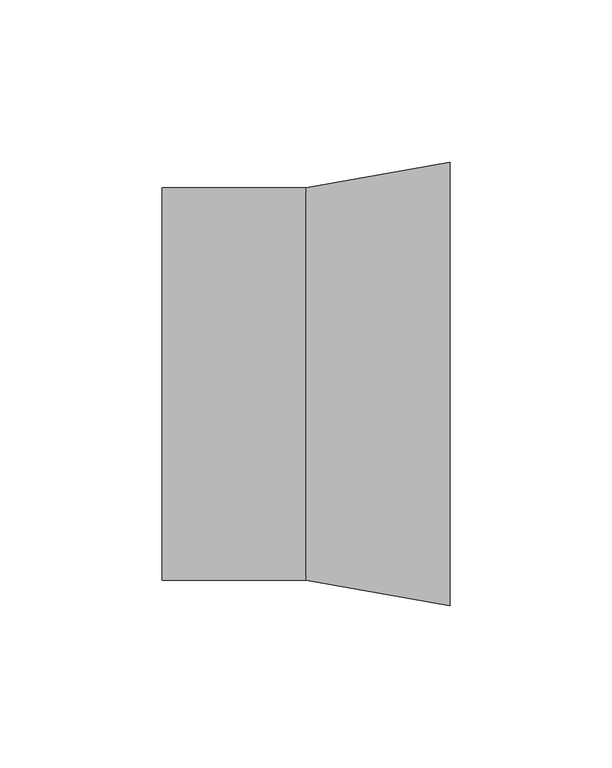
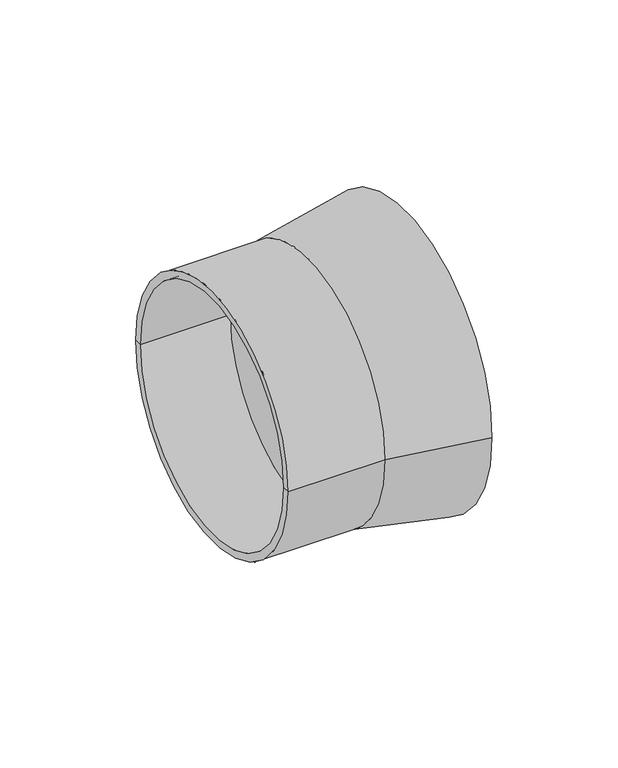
"""IFC4 building model written with IfcOpenShell, lengths in millimetres: cable carrier fitting geometry, PavcoWavin_ConduitFittings_TerminalCampana_Ducto : EB y DB."""

from ifc_helpers import new_model, si_unit, frame, origin, place, context, project, spatial, polyline, circle_curve, source, transform, mapped, element, save
from ifc_brep_helpers import plane_surface, cylinder_surface, revolved_surface, advanced_brep


def cable_carrier_fitting_0bd2d3bd(model_context):
    return source(origin(), model_context, "Body", "AdvancedBrep", [
        advanced_brep(
        [(3.175, -57.15, 0.0), (3.175, 57.15, 0.0), (3.175, 0.0, 0.0), (44.45, -65.02, 0.0), (44.45, 65.02, 0.0), (44.45, -68.5, 0.0), (44.45, 68.5, 0.0), (0.0, -60.63, 0.0), (0.0, 60.63, 0.0), (-44.45, -60.63, 0.0), (-44.45, 60.63, 0.0), (-44.45, -57.15, 0.0), (-44.45, 57.15, 0.0), (-3.175, -57.15, 0.0), (-3.175, 57.15, 0.0), (-3.175, 0.0, 0.0)],
        [
            (0, 1, circle_curve(frame((3.175, 0.0, 0.0), z_axis=(1.0, 0.0, 0.0), x_axis=(0.0, 1.0, 0.0)), 57.15)),
            (1, 2),
            (2, 0),
            (1, 0, circle_curve(frame((3.175, 0.0, 0.0), z_axis=(1.0, 0.0, 0.0), x_axis=(0.0, 1.0, 0.0)), 57.15)),
            (3, 4, circle_curve(frame((44.45, 0.0, 0.0), z_axis=(1.0, 0.0, 0.0), x_axis=(0.0, 1.0, 0.0)), 65.02)),
            (4, 1),
            (0, 3),
            (4, 3, circle_curve(frame((44.45, 0.0, 0.0), z_axis=(1.0, 0.0, 0.0), x_axis=(0.0, 1.0, 0.0)), 65.02)),
            (5, 6, circle_curve(frame((44.45, 0.0, 0.0), z_axis=(1.0, 0.0, 0.0), x_axis=(0.0, 1.0, 0.0)), 68.5)),
            (6, 4),
            (3, 5),
            (6, 5, circle_curve(frame((44.45, 0.0, 0.0), z_axis=(1.0, 0.0, 0.0), x_axis=(0.0, 1.0, 0.0)), 68.5)),
            (7, 8, circle_curve(frame((0.0, 0.0, 0.0), z_axis=(1.0, 0.0, 0.0), x_axis=(0.0, 1.0, 0.0)), 60.63)),
            (8, 6),
            (5, 7),
            (8, 7, circle_curve(frame((0.0, 0.0, 0.0), z_axis=(1.0, 0.0, 0.0), x_axis=(0.0, 1.0, 0.0)), 60.63)),
            (9, 10, circle_curve(frame((-44.45, 0.0, 0.0), z_axis=(1.0, 0.0, 0.0), x_axis=(0.0, 1.0, 0.0)), 60.63)),
            (10, 8),
            (7, 9),
            (10, 9, circle_curve(frame((-44.45, 0.0, 0.0), z_axis=(1.0, 0.0, 0.0), x_axis=(0.0, 1.0, 0.0)), 60.63)),
            (11, 12, circle_curve(frame((-44.45, 0.0, 0.0), z_axis=(1.0, 0.0, 0.0), x_axis=(0.0, 1.0, 0.0)), 57.15)),
            (12, 10),
            (9, 11),
            (12, 11, circle_curve(frame((-44.45, 0.0, 0.0), z_axis=(1.0, 0.0, 0.0), x_axis=(0.0, 1.0, 0.0)), 57.15)),
            (13, 14, circle_curve(frame((-3.175, 0.0, 0.0), z_axis=(1.0, 0.0, 0.0), x_axis=(0.0, 1.0, 0.0)), 57.15)),
            (14, 12),
            (11, 13),
            (14, 13, circle_curve(frame((-3.175, 0.0, 0.0), z_axis=(1.0, 0.0, 0.0), x_axis=(0.0, 1.0, 0.0)), 57.15)),
            (15, 14),
            (13, 15),
        ],
        [
            plane_surface(frame((3.175, 0.0, 0.0), z_axis=(1.0, 0.0, 0.0), x_axis=(0.0, 1.0, 0.0))),
            revolved_surface(polyline([(3.175, 57.15, 0.0), (44.45, 65.02, 0.0)]), (2035.0694919, 0.0, 0.0), (-1.0, 0.0, 0.0)),
            plane_surface(frame((44.45, 0.0, 0.0), z_axis=(1.0, 0.0, 0.0), x_axis=(0.0, 1.0, 0.0))),
            revolved_surface(polyline([(44.45, 68.5, 0.0), (0.0, 60.63, 0.0)]), (2035.0694919, 0.0, 0.0), (-1.0, 0.0, 0.0)),
            cylinder_surface(frame((2035.0694919, 0.0, 0.0), z_axis=(-1.0, 0.0, 0.0), x_axis=(0.0, 1.0, 0.0)), 60.63),
            plane_surface(frame((-44.45, 0.0, 0.0), z_axis=(-1.0, 0.0, 0.0), x_axis=(0.0, 1.0, 0.0))),
            revolved_surface(polyline([(-44.450000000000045, 57.15, 0.0), (-3.1749999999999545, 57.15, 0.0)]), (2035.0694919, 0.0, 0.0), (-1.0, 0.0, 0.0)),
            plane_surface(frame((-3.175, 0.0, 0.0), z_axis=(-1.0, 0.0, 0.0), x_axis=(0.0, 1.0, 0.0))),
        ],
        [
            (0, [[1, 2, 3]]),
            (0, [[4, -3, -2]]),
            (1, [[5, 6, -1, 7]]),
            (1, [[8, -7, -4, -6]]),
            (2, [[9, 10, -5, 11]]),
            (2, [[12, -11, -8, -10]]),
            (3, [[13, 14, -9, 15]]),
            (3, [[16, -15, -12, -14]]),
            (4, [[17, 18, -13, 19]]),
            (4, [[20, -19, -16, -18]]),
            (5, [[21, 22, -17, 23]]),
            (5, [[24, -23, -20, -22]]),
            (6, [[25, 26, -21, 27]]),
            (6, [[28, -27, -24, -26]]),
            (7, [[29, -25, 30]]),
            (7, [[-30, -28, -29]]),
        ],
    ),
    ])


if __name__ == "__main__":
    model = new_model("IFC4")
    model_context = context("Model", 3, world=origin())
    ifc_project = project(units=[si_unit("LENGTHUNIT", "METRE", prefix="MILLI")], contexts=[model_context])
    site = spatial("IfcSite", under=ifc_project)
    building = spatial("IfcBuilding", under=site)
    placement = place(None, origin())
    cable_carrier_fitting_shape = cable_carrier_fitting_0bd2d3bd(model_context)
    element("IfcCableCarrierFitting", 1, ObjectType="PavcoWavin_ConduitFittings_TerminalCampana_Ducto : EB y DB", at=placement, inside=building, context=model_context, shape_type="MappedRepresentation", body=[
        mapped(cable_carrier_fitting_shape, transform((0.0, 0.0, 0.0), x_axis=(1.0, 0.0, 0.0), y_axis=(0.0, 1.0, 0.0), z_axis=(0.0, 0.0, 1.0))),
    ])
    save(model, "model.ifc")
